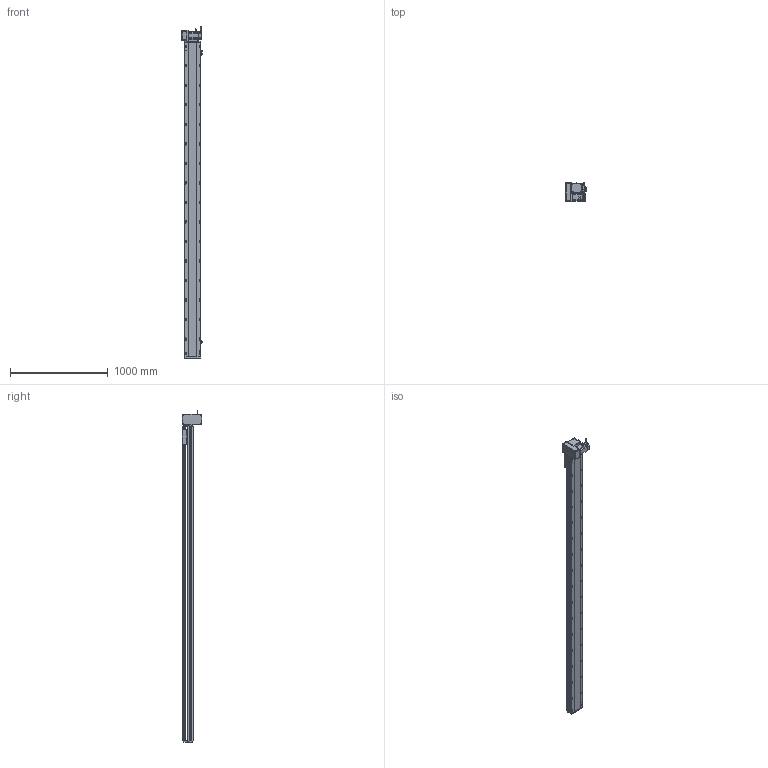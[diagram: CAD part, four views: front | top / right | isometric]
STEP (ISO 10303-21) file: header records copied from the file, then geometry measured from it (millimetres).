
FILE_DESCRIPTION (( 'STEP AP214' ), '1' );
FILE_NAME ('RTB17S-XX-2950-LM-M75-C4.STEP', '2025-12-12T00:49:22', ( '' ), ( '' ), 'SwSTEP 2.0', 'SolidWorks 2018', '' );
FILE_SCHEMA (( 'AUTOMOTIVE_DESIGN' ));
Length unit declared in the file: millimetre
Products named in the file (15): RTB17S-XX-2950-LM-M75-C4; RTB22S-GY-008-M75--萇儂啣^RTB17S-LM-々湍釱蚾饜-750W_RTB17S-XX-XX-LM-M75-C4; EE672^RTB17S-XX-XX-LM-M75-C4; RTB17S-L-007奻裔^RTB17S-XX-XX-LM-M75-C4; RTB17S-賑釱^RTB17S-XX-XX-LM-M75-C4; RTB22S-GY-018P^RTB17S-LM-々湍釱蚾饜-750W_RTB17S-XX-XX-LM-M75-C4; RTB17S-L-001-耜醱啣^RTB17S-XX-XX-LM-M75-C4; RTB22S-GY-005P^RTB17S-LM-々湍釱蚾饜-750W_RTB17S-XX-XX-LM-M75-C4; RTB17S-LM-々湍釱蚾饜-750W^RTB17S-XX-XX-LM-M75-C4; RTB22S-GY-017P^RTB17S-LM-々湍釱蚾饜-750W_RTB17S-XX-XX-LM-M75-C4; RTH13-BL-012覜茼え俋离^RTB17S-賑釱_RTB17S-XX-XX-LM-M75-C4; RTB17S-L-004-賑釱^RTB17S-賑釱_RTB17S-XX-XX-LM-M75-C4; RTB17S-L-014-T20-P75--々湍釱^RTB17S-LM-々湍釱蚾饜-750W_RTB17S-XX-XX-LM-M75-C4; RTB17-R-011菁釱^RTB17S-XX-XX-LM-M75-C4; 750W萇儂^RTB17S-XX-XX-LM-M75-C4
Assembly tree (17 placements, depth 3):
  RTB17S-XX-2950-LM-M75-C4
    RTB17-R-011菁釱^RTB17S-XX-XX-LM-M75-C4
    EE672^RTB17S-XX-XX-LM-M75-C4  x3
    RTB17S-L-001-耜醱啣^RTB17S-XX-XX-LM-M75-C4
    RTB17S-賑釱^RTB17S-XX-XX-LM-M75-C4
      RTB17S-L-004-賑釱^RTB17S-賑釱_RTB17S-XX-XX-LM-M75-C4
      RTH13-BL-012覜茼え俋离^RTB17S-賑釱_RTB17S-XX-XX-LM-M75-C4
    RTB17S-L-007奻裔^RTB17S-XX-XX-LM-M75-C4
    750W萇儂^RTB17S-XX-XX-LM-M75-C4
    RTB17S-LM-々湍釱蚾饜-750W^RTB17S-XX-XX-LM-M75-C4
      RTB17S-L-014-T20-P75--々湍釱^RTB17S-LM-々湍釱蚾饜-750W_RTB17S-XX-XX-LM-M75-C4
      RTB22S-GY-005P^RTB17S-LM-々湍釱蚾饜-750W_RTB17S-XX-XX-LM-M75-C4
      RTB22S-GY-017P^RTB17S-LM-々湍釱蚾饜-750W_RTB17S-XX-XX-LM-M75-C4  x2
      RTB22S-GY-008-M75--萇儂啣^RTB17S-LM-々湍釱蚾饜-750W_RTB17S-XX-XX-LM-M75-C4
      RTB22S-GY-018P^RTB17S-LM-々湍釱蚾饜-750W_RTB17S-XX-XX-LM-M75-C4
Bounding box: 210.4 x 200 x 3402.2 mm (x, y, z)
Volume: 24390898.8 mm3; surface area: 4466161 mm2
Topology: 17 solids, 17 shells, 2249 faces, 6322 edges, 4094 vertices
Faces by surface type: plane 990, cylinder 843, bspline 294, cone 110, sphere 8, torus 4
Entity records: 65782 total; most frequent: CARTESIAN_POINT 19586, ORIENTED_EDGE 9488, DIRECTION 8762, EDGE_CURVE 4744, AXIS2_PLACEMENT_3D 3114, VERTEX_POINT 3098, VECTOR 2534, LINE 2534
